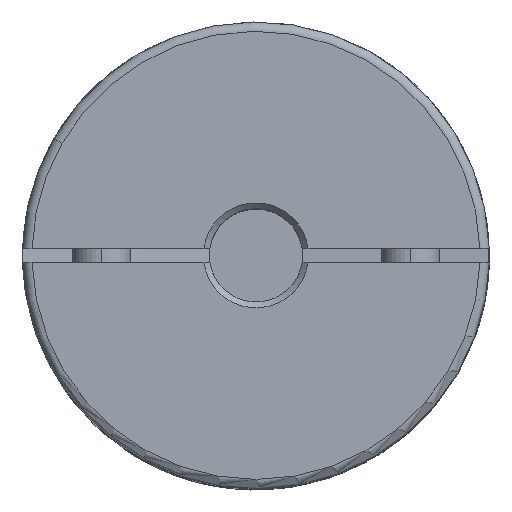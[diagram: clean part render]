
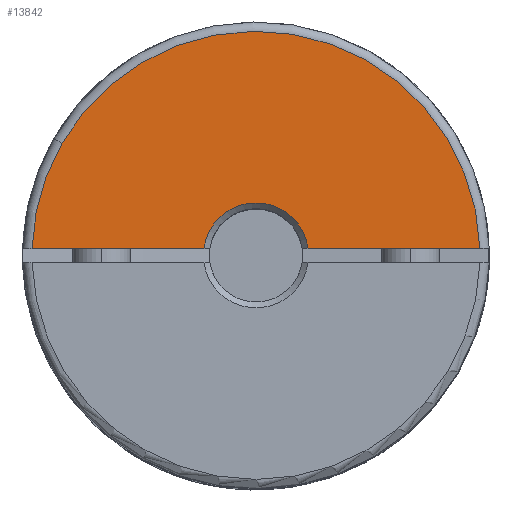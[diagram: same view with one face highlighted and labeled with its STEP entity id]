
A CAD part, top view. The second image highlights one B-rep face of the part: STEP entity #13842.
In plain terms, the highlighted planar face has unit normal (0, 0, 1).
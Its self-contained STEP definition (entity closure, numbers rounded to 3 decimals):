
#138 = EDGE_LOOP ( 'NONE', ( #1689, #1663, #1741, #1734, #1684 ) ) ;
#869 = VERTEX_POINT ( 'NONE', #13007 ) ;
#918 = VERTEX_POINT ( 'NONE', #13056 ) ;
#1244 = VERTEX_POINT ( 'NONE', #13194 ) ;
#1258 = VERTEX_POINT ( 'NONE', #13203 ) ;
#1260 = VERTEX_POINT ( 'NONE', #13200 ) ;
#1663 = ORIENTED_EDGE ( 'NONE', *, *, #11974, .T. ) ;
#1684 = ORIENTED_EDGE ( 'NONE', *, *, #12514, .T. ) ;
#1689 = ORIENTED_EDGE ( 'NONE', *, *, #11973, .T. ) ;
#1734 = ORIENTED_EDGE ( 'NONE', *, *, #11976, .T. ) ;
#1741 = ORIENTED_EDGE ( 'NONE', *, *, #11975, .T. ) ;
#2500 = DIRECTION ( 'NONE',  ( 0., 0., -1. ) ) ;
#2501 = CARTESIAN_POINT ( 'NONE',  ( 0., 0., 33. ) ) ;
#2581 = DIRECTION ( 'NONE',  ( 1., 0., 0. ) ) ;
#2587 = DIRECTION ( 'NONE',  ( 0., 0., 1. ) ) ;
#2595 = CARTESIAN_POINT ( 'NONE',  ( 0., 0., 33. ) ) ;
#2604 = DIRECTION ( 'NONE',  ( -0.866, 0.5, 0. ) ) ;
#2607 = CARTESIAN_POINT ( 'NONE',  ( 0., 0.6, 33. ) ) ;
#2613 = DIRECTION ( 'NONE',  ( 0., 1., 0. ) ) ;
#2658 = CARTESIAN_POINT ( 'NONE',  ( 0., 0.6, 33. ) ) ;
#2661 = DIRECTION ( 'NONE',  ( 1., 0., 0. ) ) ;
#3629 = CIRCLE ( 'NONE', #10944, 19.2 ) ;
#4804 = AXIS2_PLACEMENT_3D ( 'NONE', #2501, #2500, #2613 ) ;
#4805 = AXIS2_PLACEMENT_3D ( 'NONE', #2595, #2587, #2604 ) ;
#5545 = CIRCLE ( 'NONE', #4804, 4.5 ) ;
#5549 = LINE ( 'NONE', #2658, #5551 ) ;
#5551 = VECTOR ( 'NONE', #2661, 1000. ) ;
#5552 = LINE ( 'NONE', #2607, #5554 ) ;
#5553 = CIRCLE ( 'NONE', #4805, 19.2 ) ;
#5554 = VECTOR ( 'NONE', #2581, 1000. ) ;
#6315 = CARTESIAN_POINT ( 'NONE',  ( 0., 0., 33. ) ) ;
#6316 = DIRECTION ( 'NONE',  ( 0., 0., 1. ) ) ;
#6317 = DIRECTION ( 'NONE',  ( -0.866, 0.5, 0. ) ) ;
#10476 = FACE_OUTER_BOUND ( 'NONE', #138, .T. ) ;
#10944 = AXIS2_PLACEMENT_3D ( 'NONE', #6315, #6316, #6317 ) ;
#11136 = AXIS2_PLACEMENT_3D ( 'NONE', #14452, #14457, #14458 ) ;
#11973 = EDGE_CURVE ( 'NONE', #918, #1244, #5549, .T. ) ;
#11974 = EDGE_CURVE ( 'NONE', #1244, #1258, #5545, .T. ) ;
#11975 = EDGE_CURVE ( 'NONE', #1258, #1260, #5552, .T. ) ;
#11976 = EDGE_CURVE ( 'NONE', #1260, #869, #5553, .T. ) ;
#12514 = EDGE_CURVE ( 'NONE', #869, #918, #3629, .T. ) ;
#13007 = CARTESIAN_POINT ( 'NONE',  ( -16.628, 9.6, 33. ) ) ;
#13056 = CARTESIAN_POINT ( 'NONE',  ( -19.191, 0.6, 33. ) ) ;
#13194 = CARTESIAN_POINT ( 'NONE',  ( -4.46, 0.6, 33. ) ) ;
#13200 = CARTESIAN_POINT ( 'NONE',  ( 19.191, 0.6, 33. ) ) ;
#13203 = CARTESIAN_POINT ( 'NONE',  ( 4.46, 0.6, 33. ) ) ;
#13842 = ADVANCED_FACE ( 'NONE', ( #10476 ), #14453, .F. ) ;
#14452 = CARTESIAN_POINT ( 'NONE',  ( 0., 0., 33. ) ) ;
#14453 = PLANE ( 'NONE',  #11136 ) ;
#14457 = DIRECTION ( 'NONE',  ( 0., 0., -1. ) ) ;
#14458 = DIRECTION ( 'NONE',  ( -0.866, 0.5, 0. ) ) ;
